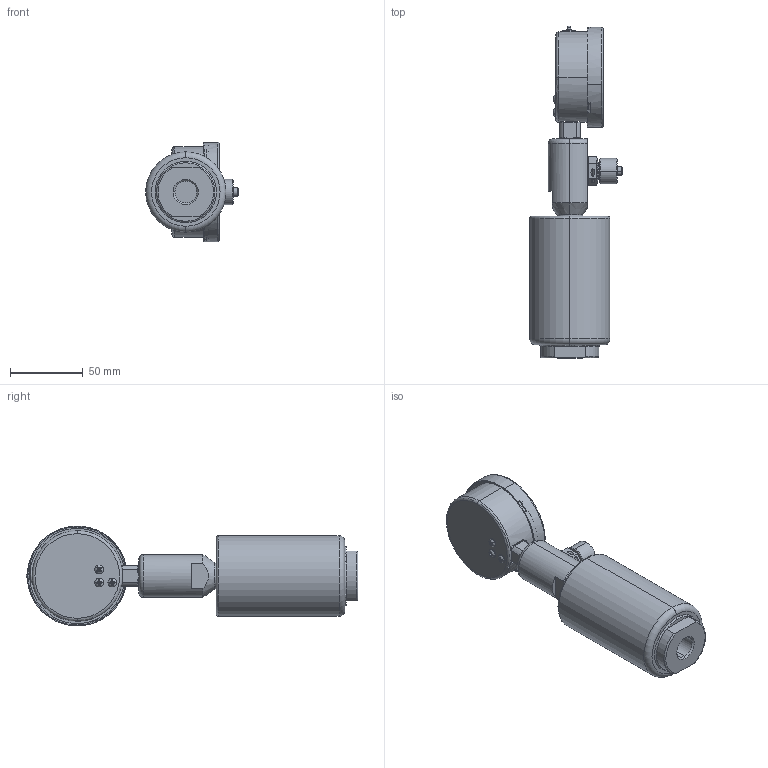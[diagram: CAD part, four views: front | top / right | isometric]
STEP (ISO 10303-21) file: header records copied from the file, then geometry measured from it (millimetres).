
FILE_DESCRIPTION (( 'STEP AP214' ), '1' );
FILE_NAME ('U001G26X1-AI (DGA).STEP', '2025-05-14T14:47:37', ( '' ), ( '' ), 'SwSTEP 2.0', 'SolidWorks 2024', '' );
FILE_SCHEMA (( 'AUTOMOTIVE_DESIGN' ));
Length unit declared in the file: millimetre
Products named in the file (1): U001G26X1-AI (DGA)
Bounding box: 63.5 x 227.45 x 68.39 mm (x, y, z)
Surface area: 62427.6 mm2 (no closed solid volume)
Topology: 0 solids, 15 shells, 344 faces, 900 edges, 565 vertices
Faces by surface type: cylinder 103, plane 80, torus 59, cone 56, bspline 36, sphere 10
Entity records: 15058 total; most frequent: CARTESIAN_POINT 2836, DIRECTION 1829, ORIENTED_EDGE 1647, EDGE_CURVE 898, AXIS2_PLACEMENT_3D 768, VERTEX_POINT 565, CIRCLE 459, EDGE_LOOP 386
